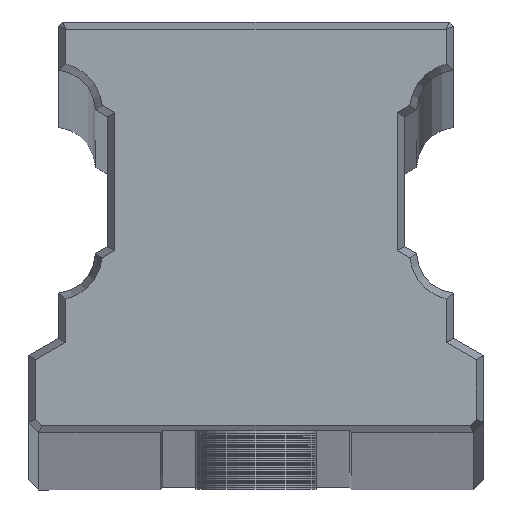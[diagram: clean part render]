
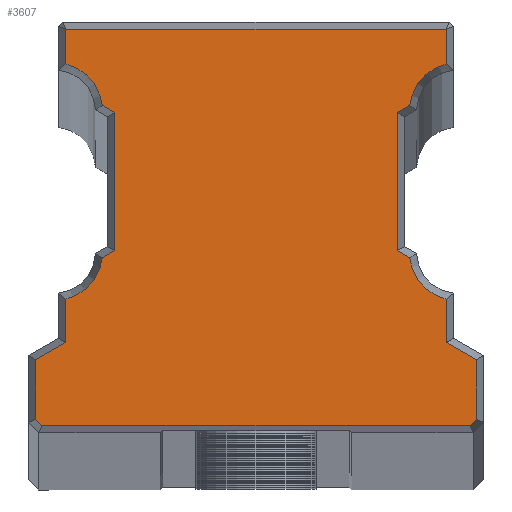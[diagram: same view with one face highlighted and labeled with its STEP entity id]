
A CAD part, top view. The second image highlights one B-rep face of the part: STEP entity #3607.
In plain terms, the highlighted planar face has unit normal (0, 0, 1).
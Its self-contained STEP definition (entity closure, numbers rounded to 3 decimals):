
#901=DIRECTION('',(1.,0.,0.));
#902=VECTOR('',#901,49.896);
#903=CARTESIAN_POINT('',(-24.948,0.85,0.));
#904=LINE('',#903,#902);
#905=DIRECTION('',(0.707,-0.707,0.));
#906=VECTOR('',#905,0.993);
#907=CARTESIAN_POINT('',(-25.65,1.552,0.));
#908=LINE('',#907,#906);
#909=DIRECTION('',(0.,-1.,0.));
#910=VECTOR('',#909,6.936);
#911=CARTESIAN_POINT('',(-25.65,8.488,0.));
#912=LINE('',#911,#910);
#913=DIRECTION('',(-0.866,-0.5,0.));
#914=VECTOR('',#913,4.041);
#915=CARTESIAN_POINT('',(-22.15,10.509,0.));
#916=LINE('',#915,#914);
#917=DIRECTION('',(0.,-1.,0.));
#918=VECTOR('',#917,5.031);
#919=CARTESIAN_POINT('',(-22.15,15.54,0.));
#920=LINE('',#919,#918);
#921=CARTESIAN_POINT('',(-23.571,21.071,0.));
#922=DIRECTION('',(0.,0.,-1.));
#923=DIRECTION('',(0.992,-0.123,0.));
#924=AXIS2_PLACEMENT_3D('',#921,#922,#923);
#926=DIRECTION('',(-0.866,-0.5,0.));
#927=VECTOR('',#926,1.679);
#928=CARTESIAN_POINT('',(-16.45,21.209,0.));
#929=LINE('',#928,#927);
#930=DIRECTION('',(0.,-1.,0.));
#931=VECTOR('',#930,16.082);
#932=CARTESIAN_POINT('',(-16.45,37.291,0.));
#933=LINE('',#932,#931);
#934=DIRECTION('',(0.866,-0.5,0.));
#935=VECTOR('',#934,1.679);
#936=CARTESIAN_POINT('',(-17.904,38.13,0.));
#937=LINE('',#936,#935);
#938=CARTESIAN_POINT('',(-23.571,37.429,0.));
#939=DIRECTION('',(0.,0.,-1.));
#940=DIRECTION('',(0.249,0.969,0.));
#941=AXIS2_PLACEMENT_3D('',#938,#939,#940);
#943=DIRECTION('',(0.,-1.,0.001));
#944=VECTOR('',#943,4.042);
#945=CARTESIAN_POINT('',(-22.151,47.001,
-0.002));
#946=LINE('',#945,#944);
#947=DIRECTION('',(-1.,0.,0.));
#948=VECTOR('',#947,44.303);
#949=CARTESIAN_POINT('',(22.151,47.001,-0.002));
#950=LINE('',#949,#948);
#951=DIRECTION('',(0.,1.,-0.001));
#952=VECTOR('',#951,4.042);
#953=CARTESIAN_POINT('',(22.15,42.96,0.));
#954=LINE('',#953,#952);
#955=CARTESIAN_POINT('',(23.571,37.429,0.));
#956=DIRECTION('',(0.,0.,-1.));
#957=DIRECTION('',(-0.992,0.123,0.));
#958=AXIS2_PLACEMENT_3D('',#955,#956,#957);
#960=DIRECTION('',(0.866,0.5,0.));
#961=VECTOR('',#960,1.679);
#962=CARTESIAN_POINT('',(16.45,37.291,0.));
#963=LINE('',#962,#961);
#964=DIRECTION('',(0.,1.,0.));
#965=VECTOR('',#964,16.082);
#966=CARTESIAN_POINT('',(16.45,21.209,0.));
#967=LINE('',#966,#965);
#968=DIRECTION('',(-0.866,0.5,0.));
#969=VECTOR('',#968,1.679);
#970=CARTESIAN_POINT('',(17.904,20.37,0.));
#971=LINE('',#970,#969);
#972=CARTESIAN_POINT('',(23.571,21.071,0.));
#973=DIRECTION('',(0.,0.,-1.));
#974=DIRECTION('',(-0.249,-0.969,0.));
#975=AXIS2_PLACEMENT_3D('',#972,#973,#974);
#977=DIRECTION('',(0.,1.,0.));
#978=VECTOR('',#977,5.031);
#979=CARTESIAN_POINT('',(22.15,10.509,0.));
#980=LINE('',#979,#978);
#981=DIRECTION('',(-0.866,0.5,0.));
#982=VECTOR('',#981,4.041);
#983=CARTESIAN_POINT('',(25.65,8.488,0.));
#984=LINE('',#983,#982);
#985=DIRECTION('',(0.,1.,0.));
#986=VECTOR('',#985,6.936);
#987=CARTESIAN_POINT('',(25.65,1.552,0.));
#988=LINE('',#987,#986);
#989=DIRECTION('',(0.707,0.707,0.));
#990=VECTOR('',#989,0.993);
#991=CARTESIAN_POINT('',(24.948,0.85,0.));
#992=LINE('',#991,#990);
#2369=CARTESIAN_POINT('',(-24.948,0.85,0.));
#2370=CARTESIAN_POINT('',(24.948,0.85,0.));
#2371=VERTEX_POINT('',#2369);
#2372=VERTEX_POINT('',#2370);
#2373=CARTESIAN_POINT('',(25.65,1.552,0.));
#2374=VERTEX_POINT('',#2373);
#2375=CARTESIAN_POINT('',(25.65,8.488,0.));
#2376=VERTEX_POINT('',#2375);
#2377=CARTESIAN_POINT('',(22.15,10.509,0.));
#2378=VERTEX_POINT('',#2377);
#2379=CARTESIAN_POINT('',(22.15,15.54,0.));
#2380=VERTEX_POINT('',#2379);
#2381=CARTESIAN_POINT('',(17.904,20.37,0.));
#2382=VERTEX_POINT('',#2381);
#2383=CARTESIAN_POINT('',(16.45,21.209,0.));
#2384=VERTEX_POINT('',#2383);
#2385=CARTESIAN_POINT('',(16.45,37.291,0.));
#2386=VERTEX_POINT('',#2385);
#2387=CARTESIAN_POINT('',(17.904,38.13,0.));
#2388=VERTEX_POINT('',#2387);
#2389=CARTESIAN_POINT('',(22.15,42.96,0.));
#2390=VERTEX_POINT('',#2389);
#2391=CARTESIAN_POINT('',(22.151,47.001,
-0.002));
#2392=VERTEX_POINT('',#2391);
#2393=CARTESIAN_POINT('',(-22.151,47.001,
-0.002));
#2394=VERTEX_POINT('',#2393);
#2395=CARTESIAN_POINT('',(-22.15,42.96,0.));
#2396=VERTEX_POINT('',#2395);
#2397=CARTESIAN_POINT('',(-17.904,38.13,0.));
#2398=VERTEX_POINT('',#2397);
#2399=CARTESIAN_POINT('',(-16.45,37.291,0.));
#2400=VERTEX_POINT('',#2399);
#2401=CARTESIAN_POINT('',(-16.45,21.209,0.));
#2402=VERTEX_POINT('',#2401);
#2403=CARTESIAN_POINT('',(-17.904,20.37,0.));
#2404=VERTEX_POINT('',#2403);
#2405=CARTESIAN_POINT('',(-22.15,15.54,0.));
#2406=VERTEX_POINT('',#2405);
#2407=CARTESIAN_POINT('',(-22.15,10.509,0.));
#2408=VERTEX_POINT('',#2407);
#2409=CARTESIAN_POINT('',(-25.65,8.488,0.));
#2410=VERTEX_POINT('',#2409);
#2411=CARTESIAN_POINT('',(-25.65,1.552,0.));
#2412=VERTEX_POINT('',#2411);
#3557=CARTESIAN_POINT('',(0.,0.,0.));
#3558=DIRECTION('',(0.,0.,1.));
#3559=DIRECTION('',(1.,0.,0.));
#3560=AXIS2_PLACEMENT_3D('',#3557,#3558,#3559);
#3561=PLANE('',#3560);
#3563=ORIENTED_EDGE('',*,*,#3562,.F.);
#3565=ORIENTED_EDGE('',*,*,#3564,.F.);
#3567=ORIENTED_EDGE('',*,*,#3566,.F.);
#3569=ORIENTED_EDGE('',*,*,#3568,.F.);
#3571=ORIENTED_EDGE('',*,*,#3570,.F.);
#3573=ORIENTED_EDGE('',*,*,#3572,.F.);
#3575=ORIENTED_EDGE('',*,*,#3574,.F.);
#3577=ORIENTED_EDGE('',*,*,#3576,.F.);
#3579=ORIENTED_EDGE('',*,*,#3578,.F.);
#3581=ORIENTED_EDGE('',*,*,#3580,.F.);
#3582=ORIENTED_EDGE('',*,*,#3547,.F.);
#3584=ORIENTED_EDGE('',*,*,#3583,.F.);
#3586=ORIENTED_EDGE('',*,*,#3585,.F.);
#3588=ORIENTED_EDGE('',*,*,#3587,.F.);
#3590=ORIENTED_EDGE('',*,*,#3589,.F.);
#3592=ORIENTED_EDGE('',*,*,#3591,.F.);
#3594=ORIENTED_EDGE('',*,*,#3593,.F.);
#3596=ORIENTED_EDGE('',*,*,#3595,.F.);
#3598=ORIENTED_EDGE('',*,*,#3597,.F.);
#3600=ORIENTED_EDGE('',*,*,#3599,.F.);
#3602=ORIENTED_EDGE('',*,*,#3601,.F.);
#3604=ORIENTED_EDGE('',*,*,#3603,.F.);
#3605=EDGE_LOOP('',(#3563,#3565,#3567,#3569,#3571,#3573,#3575,#3577,#3579,#3581,
#3582,#3584,#3586,#3588,#3590,#3592,#3594,#3596,#3598,#3600,#3602,#3604));
#3606=FACE_OUTER_BOUND('',#3605,.F.);
#925=CIRCLE('',#924,5.71);
#942=CIRCLE('',#941,5.71);
#959=CIRCLE('',#958,5.71);
#976=CIRCLE('',#975,5.71);
#3547=EDGE_CURVE('',#2394,#2396,#946,.T.);
#3562=EDGE_CURVE('',#2371,#2372,#904,.T.);
#3564=EDGE_CURVE('',#2412,#2371,#908,.T.);
#3566=EDGE_CURVE('',#2410,#2412,#912,.T.);
#3568=EDGE_CURVE('',#2408,#2410,#916,.T.);
#3570=EDGE_CURVE('',#2406,#2408,#920,.T.);
#3572=EDGE_CURVE('',#2404,#2406,#925,.T.);
#3574=EDGE_CURVE('',#2402,#2404,#929,.T.);
#3576=EDGE_CURVE('',#2400,#2402,#933,.T.);
#3578=EDGE_CURVE('',#2398,#2400,#937,.T.);
#3580=EDGE_CURVE('',#2396,#2398,#942,.T.);
#3583=EDGE_CURVE('',#2392,#2394,#950,.T.);
#3585=EDGE_CURVE('',#2390,#2392,#954,.T.);
#3587=EDGE_CURVE('',#2388,#2390,#959,.T.);
#3589=EDGE_CURVE('',#2386,#2388,#963,.T.);
#3591=EDGE_CURVE('',#2384,#2386,#967,.T.);
#3593=EDGE_CURVE('',#2382,#2384,#971,.T.);
#3595=EDGE_CURVE('',#2380,#2382,#976,.T.);
#3597=EDGE_CURVE('',#2378,#2380,#980,.T.);
#3599=EDGE_CURVE('',#2376,#2378,#984,.T.);
#3601=EDGE_CURVE('',#2374,#2376,#988,.T.);
#3603=EDGE_CURVE('',#2372,#2374,#992,.T.);
#3607=ADVANCED_FACE('',(#3606),#3561,.T.);
